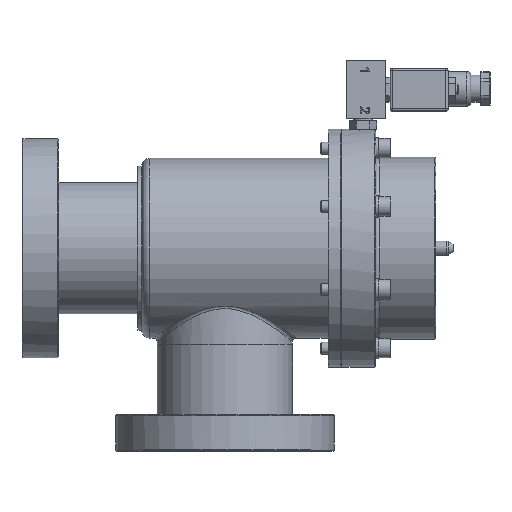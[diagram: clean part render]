
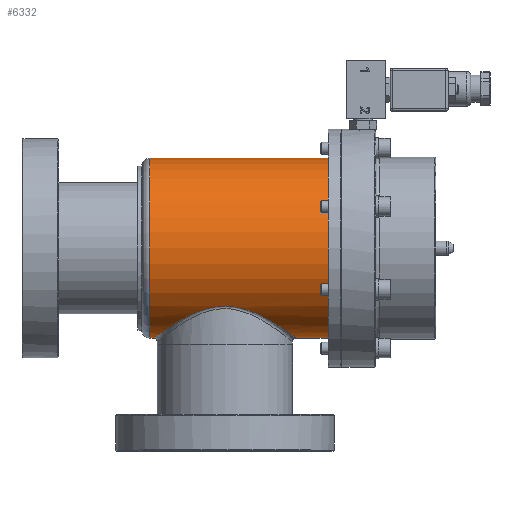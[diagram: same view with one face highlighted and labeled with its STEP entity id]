
A CAD part, top view. The second image highlights one B-rep face of the part: STEP entity #6332.
In plain terms, the highlighted cylindrical face has radius 46.5 mm (diameter 93 mm), a full revolution.
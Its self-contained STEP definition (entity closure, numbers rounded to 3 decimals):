
#3154=B_SPLINE_CURVE_WITH_KNOTS('',3,(#17371,#17372,#17373,#17374,#17375,
#17376,#17377,#17378,#17379,#17380,#17381,#17382,#17383,#17384,#17385,#17386,
#17387,#17388,#17389,#17390,#17391,#17392,#17393,#17394,#17395,#17396,#17397,
#17398,#17399,#17400,#17401,#17402,#17403,#17404,#17405,#17406,#17407,#17408,
#17409,#17410,#17411,#17412,#17413,#17414,#17415,#17416),.UNSPECIFIED.,.T.,
 .F.,(2,2,2,2,2,2,2,2,2,2,2,2,2,2,2,2,2,2,2,2,2,2,2,2,2),(-0.063,0.,0.063,
0.094,0.125,0.156,0.188,0.219,0.25,0.313,0.375,0.438,
0.5,0.531,0.563,0.625,0.656,0.688,0.719,0.75,0.813,0.875,0.938,
1.,1.063),.UNSPECIFIED.);
#5371=CYLINDRICAL_SURFACE('',#11977,46.5);
#5784=FACE_BOUND('',#7496,.T.);
#5785=FACE_BOUND('',#7497,.T.);
#5786=FACE_BOUND('',#7498,.T.);
#6332=ADVANCED_FACE('',(#5784,#5785,#5786),#5371,.T.);
#7496=EDGE_LOOP('',(#9274));
#7497=EDGE_LOOP('',(#9275));
#7498=EDGE_LOOP('',(#9276));
#9274=ORIENTED_EDGE('',*,*,#10894,.T.);
#9275=ORIENTED_EDGE('',*,*,#10895,.T.);
#9276=ORIENTED_EDGE('',*,*,#10896,.T.);
#10005=VERTEX_POINT('',#17370);
#10006=VERTEX_POINT('',#17417);
#10007=VERTEX_POINT('',#17419);
#10894=EDGE_CURVE('',#10005,#10005,#11238,.T.);
#10895=EDGE_CURVE('',#10006,#10006,#3154,.T.);
#10896=EDGE_CURVE('',#10007,#10007,#11239,.T.);
#11238=CIRCLE('',#11975,46.5);
#11239=CIRCLE('',#11976,46.5);
#11975=AXIS2_PLACEMENT_3D('',#17369,#13900,#13901);
#11976=AXIS2_PLACEMENT_3D('',#17418,#13902,#13903);
#11977=AXIS2_PLACEMENT_3D('',#17420,#13904,#13905);
#13900=DIRECTION('',(1.,0.,0.));
#13901=DIRECTION('',(0.,0.,-1.));
#13902=DIRECTION('',(-1.,0.,0.));
#13903=DIRECTION('',(0.,0.,1.));
#13904=DIRECTION('',(-1.,0.,0.));
#13905=DIRECTION('',(0.,0.,1.));
#17369=CARTESIAN_POINT('',(4.,0.,0.));
#17370=CARTESIAN_POINT('',(4.,0.,-46.5));
#17371=CARTESIAN_POINT('',(37.968,-30.064,35.474));
#17372=CARTESIAN_POINT('',(48.032,-30.064,35.474));
#17373=CARTESIAN_POINT('',(52.901,-31.3,34.474));
#17374=CARTESIAN_POINT('',(59.385,-33.868,31.885));
#17375=CARTESIAN_POINT('',(61.453,-34.849,30.826));
#17376=CARTESIAN_POINT('',(65.29,-36.853,28.4));
#17377=CARTESIAN_POINT('',(67.071,-37.881,27.031));
#17378=CARTESIAN_POINT('',(70.388,-39.898,23.955));
#17379=CARTESIAN_POINT('',(71.934,-40.896,22.227));
#17380=CARTESIAN_POINT('',(74.659,-42.712,18.5));
#17381=CARTESIAN_POINT('',(75.851,-43.536,16.494));
#17382=CARTESIAN_POINT('',(77.853,-44.945,12.143));
#17383=CARTESIAN_POINT('',(78.643,-45.514,9.827));
#17384=CARTESIAN_POINT('',(79.712,-46.288,5.049));
#17385=CARTESIAN_POINT('',(79.996,-46.497,2.53));
#17386=CARTESIAN_POINT('',(80.008,-46.506,-4.901));
#17387=CARTESIAN_POINT('',(78.892,-45.677,-9.844));
#17388=CARTESIAN_POINT('',(74.912,-42.875,-18.574));
#17389=CARTESIAN_POINT('',(72.101,-40.942,-22.354));
#17390=CARTESIAN_POINT('',(65.451,-36.893,-28.545));
#17391=CARTESIAN_POINT('',(61.575,-34.738,-31.007));
#17392=CARTESIAN_POINT('',(52.929,-31.308,-34.467));
#17393=CARTESIAN_POINT('',(48.026,-30.066,-35.472));
#17394=CARTESIAN_POINT('',(40.507,-30.063,-35.475));
#17395=CARTESIAN_POINT('',(38.066,-30.352,-35.235));
#17396=CARTESIAN_POINT('',(33.293,-31.392,-34.311));
#17397=CARTESIAN_POINT('',(30.979,-32.142,-33.625));
#17398=CARTESIAN_POINT('',(24.474,-34.713,-31.035));
#17399=CARTESIAN_POINT('',(20.607,-36.861,-28.585));
#17400=CARTESIAN_POINT('',(15.628,-39.888,-23.971));
#17401=CARTESIAN_POINT('',(14.08,-40.887,-22.244));
#17402=CARTESIAN_POINT('',(11.351,-42.705,-18.516));
#17403=CARTESIAN_POINT('',(10.157,-43.531,-16.509));
#17404=CARTESIAN_POINT('',(8.153,-44.941,-12.158));
#17405=CARTESIAN_POINT('',(7.361,-45.511,-9.84));
#17406=CARTESIAN_POINT('',(6.29,-46.287,-5.06));
#17407=CARTESIAN_POINT('',(6.004,-46.497,-2.539));
#17408=CARTESIAN_POINT('',(5.991,-46.506,4.897));
#17409=CARTESIAN_POINT('',(7.107,-45.677,9.843));
#17410=CARTESIAN_POINT('',(11.089,-42.874,18.577));
#17411=CARTESIAN_POINT('',(13.903,-40.939,22.359));
#17412=CARTESIAN_POINT('',(20.559,-36.887,28.553));
#17413=CARTESIAN_POINT('',(24.438,-34.732,31.014));
#17414=CARTESIAN_POINT('',(33.092,-31.302,34.473));
#17415=CARTESIAN_POINT('',(37.968,-30.064,35.474));
#17416=CARTESIAN_POINT('',(48.032,-30.064,35.474));
#17417=CARTESIAN_POINT('',(43.,-30.064,35.474));
#17418=CARTESIAN_POINT('',(98.6,0.,0.));
#17419=CARTESIAN_POINT('',(98.6,0.,46.5));
#17420=CARTESIAN_POINT('',(0.,0.,0.));
